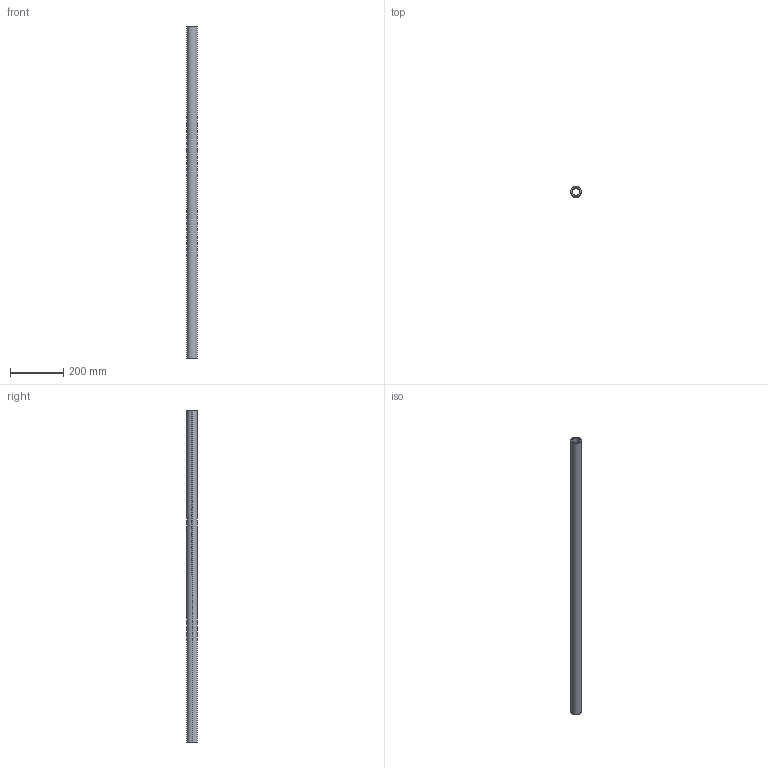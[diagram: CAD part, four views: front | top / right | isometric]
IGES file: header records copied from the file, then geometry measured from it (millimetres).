
Start section: SolidWorks IGES file using analytic representation for surfaces
Global section: file name: C:\Users\IanO\Desktop\L1771_v2\L1771.40_v2\L1771.40_v2_20230705_IGES\L1771.40-1250.igs; native system: SolidWorks 2019; preprocessor: SolidWorks 2019; author: IanO; date: 230705.160501; units: millimetre
Bounding box: 40 x 40 x 1250 mm (x, y, z)
Surface area: 268317.1 mm2 (no closed solid volume)
Topology: 0 solids, 0 shells, 6 faces, 272 edges, 272 vertices
Faces by surface type: revolution 4, bspline 2
